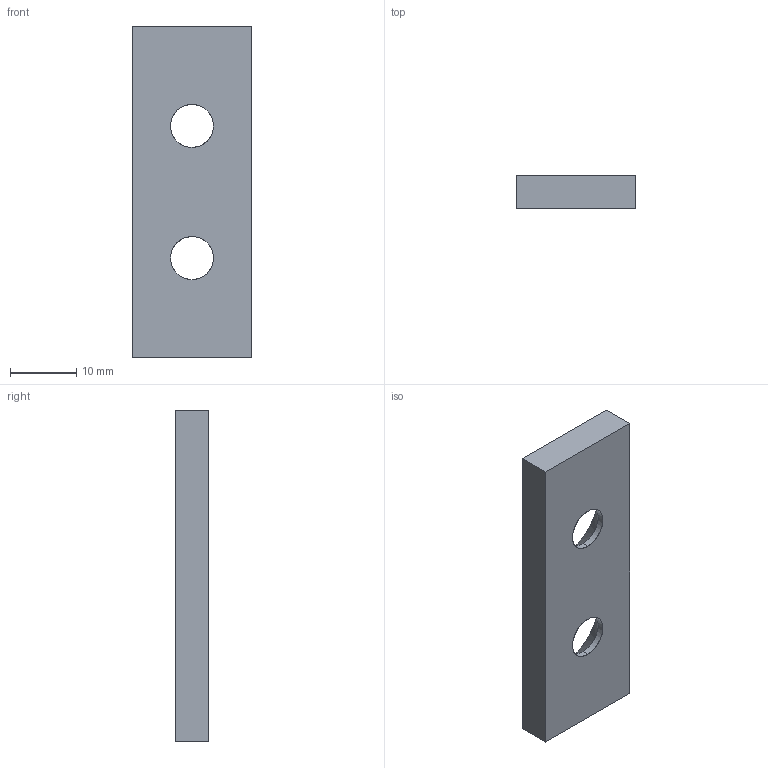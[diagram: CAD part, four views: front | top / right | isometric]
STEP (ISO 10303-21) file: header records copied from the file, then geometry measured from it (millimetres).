
FILE_DESCRIPTION(('CATIA V5 STEP Exchange'),'2;1');
FILE_NAME('C:\Users\Utente\Desktop\3D files A605\A605-018-050.stp','2020-04-13T15:46:13+00:00',('none'),('none'),'CATIA Version 5 Release 20 GA (IN-10)','CATIA V5 STEP AP203','none');
FILE_SCHEMA(('CONFIG_CONTROL_DESIGN'));
Length unit declared in the file: millimetre
Products named in the file (1): Noname
Bounding box: 18 x 5 x 50 mm (x, y, z)
Surface area: 2497.4 mm2 (no closed solid volume)
Topology: 0 solids, 10 shells, 14 faces, 56 edges, 48 vertices
Faces by surface type: extrusion 6, cylinder 4, revolution 4
Entity records: 714 total; most frequent: CARTESIAN_POINT 221, DIRECTION 66, ORIENTED_EDGE 64, EDGE_CURVE 56, VERTEX_POINT 48, VECTOR 38, LINE 32, AXIS2_PLACEMENT_3D 21
